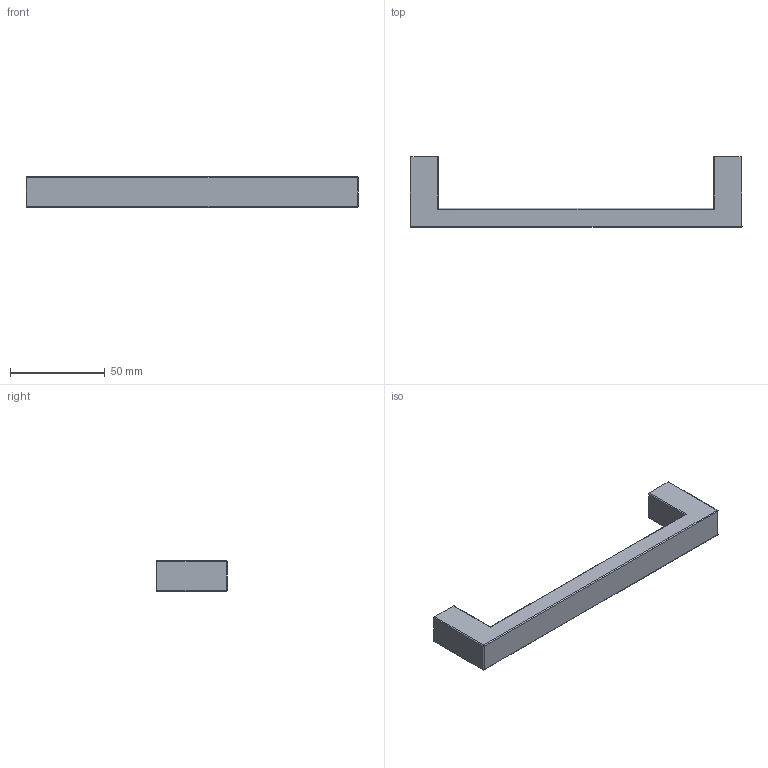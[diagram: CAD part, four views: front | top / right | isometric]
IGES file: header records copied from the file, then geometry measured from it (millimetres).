
Start section: Data from Parasolid IGES Translator 15.0.47, Copyright(c) 2006 Siemens P LM Software. All Rights Reserved.
Global section: file name: 9069805.igs; native system:  By UGS Corp.; preprocessor: XPlus GENERIC/IGES 3.0; author: Noname; organization: Noname; date: 20140122.181641; units: millimetre
Bounding box: 175 x 37.01 x 16.01 mm (x, y, z)
Surface area: 12763.5 mm2 (no closed solid volume)
Topology: 0 solids, 0 shells, 34 faces, 164 edges, 162 vertices
Faces by surface type: revolution 18, extrusion 16
